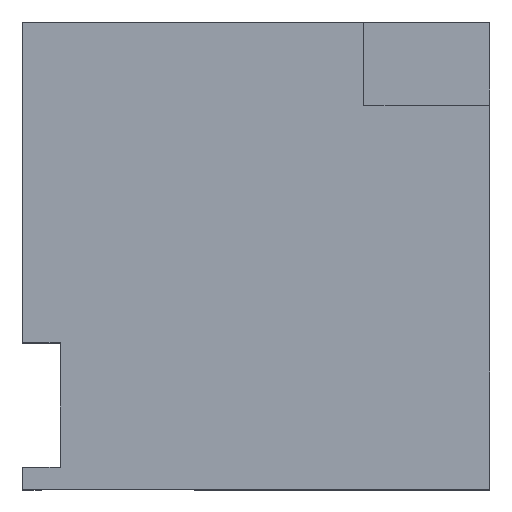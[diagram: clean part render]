
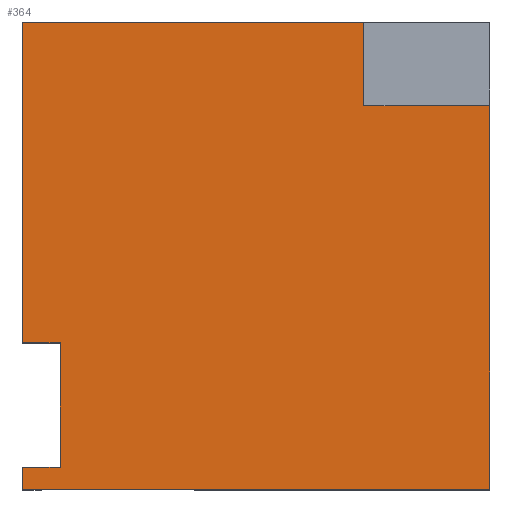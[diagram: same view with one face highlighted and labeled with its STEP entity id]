
A CAD part, top view. The second image highlights one B-rep face of the part: STEP entity #364.
In plain terms, the highlighted planar face has unit normal (0, 0, 1).
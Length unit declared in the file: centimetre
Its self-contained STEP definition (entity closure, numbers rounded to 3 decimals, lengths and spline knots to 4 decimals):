
#1 = PLANE ( 'NONE',  #713 ) ;
#21 = CARTESIAN_POINT ( 'NONE',  ( 0., 0., 1000. ) ) ;
#38 = VERTEX_POINT ( 'NONE', #528 ) ;
#44 = CARTESIAN_POINT ( 'NONE',  ( 730.9199, 821.097, 1000. ) ) ;
#52 = CARTESIAN_POINT ( 'NONE',  ( 1000., 0., 1000. ) ) ;
#58 = VECTOR ( 'NONE', #438, 100. ) ;
#94 = EDGE_CURVE ( 'NONE', #226, #446, #104, .T. ) ;
#101 = EDGE_CURVE ( 'NONE', #38, #204, #419, .T. ) ;
#104 = LINE ( 'NONE', #111, #1151 ) ;
#111 = CARTESIAN_POINT ( 'NONE',  ( 730.9199, 821.097, 1000. ) ) ;
#129 = VERTEX_POINT ( 'NONE', #496 ) ;
#153 = ORIENTED_EDGE ( 'NONE', *, *, #1100, .T. ) ;
#166 = CARTESIAN_POINT ( 'NONE',  ( 0., 1000., 1000. ) ) ;
#186 = CARTESIAN_POINT ( 'NONE',  ( 1000., 821.097, 1000. ) ) ;
#202 = DIRECTION ( 'NONE',  ( 0., 0., 1. ) ) ;
#204 = VERTEX_POINT ( 'NONE', #52 ) ;
#226 = VERTEX_POINT ( 'NONE', #44 ) ;
#255 = ORIENTED_EDGE ( 'NONE', *, *, #932, .T. ) ;
#267 = ORIENTED_EDGE ( 'NONE', *, *, #101, .T. ) ;
#281 = CARTESIAN_POINT ( 'NONE',  ( 0., 1000., 1000. ) ) ;
#285 = CARTESIAN_POINT ( 'NONE',  ( 0., 313.1975, 1000. ) ) ;
#291 = EDGE_CURVE ( 'NONE', #829, #226, #621, .T. ) ;
#302 = CARTESIAN_POINT ( 'NONE',  ( 730.9199, 1000., 1000. ) ) ;
#315 = DIRECTION ( 'NONE',  ( 1., 0., 0. ) ) ;
#317 = DIRECTION ( 'NONE',  ( -1., 0., 0. ) ) ;
#337 = VERTEX_POINT ( 'NONE', #491 ) ;
#338 = VECTOR ( 'NONE', #645, 100. ) ;
#364 = ADVANCED_FACE ( 'NONE', ( #1075 ), #1, .T. ) ;
#406 = DIRECTION ( 'NONE',  ( 0., 1., 0. ) ) ;
#413 = ORIENTED_EDGE ( 'NONE', *, *, #1195, .T. ) ;
#419 = LINE ( 'NONE', #1183, #434 ) ;
#434 = VECTOR ( 'NONE', #878, 100. ) ;
#438 = DIRECTION ( 'NONE',  ( 1., 0., 0. ) ) ;
#443 = ORIENTED_EDGE ( 'NONE', *, *, #512, .T. ) ;
#445 = CARTESIAN_POINT ( 'NONE',  ( 80.9382, 313.1975, 1000. ) ) ;
#446 = VERTEX_POINT ( 'NONE', #186 ) ;
#470 = LINE ( 'NONE', #857, #908 ) ;
#477 = DIRECTION ( 'NONE',  ( -1., 0., 0. ) ) ;
#485 = VERTEX_POINT ( 'NONE', #285 ) ;
#491 = CARTESIAN_POINT ( 'NONE',  ( 80.9382, 47.2096, 1000. ) ) ;
#496 = CARTESIAN_POINT ( 'NONE',  ( 0., 47.2096, 1000. ) ) ;
#501 = EDGE_CURVE ( 'NONE', #129, #38, #470, .T. ) ;
#512 = EDGE_CURVE ( 'NONE', #829, #871, #1260, .T. ) ;
#513 = CARTESIAN_POINT ( 'NONE',  ( 1000., 1000., 1000. ) ) ;
#520 = DIRECTION ( 'NONE',  ( 0., -1., 0. ) ) ;
#528 = CARTESIAN_POINT ( 'NONE',  ( 0., 0., 1000. ) ) ;
#562 = VECTOR ( 'NONE', #406, 100. ) ;
#571 = VECTOR ( 'NONE', #723, 100. ) ;
#621 = LINE ( 'NONE', #637, #571 ) ;
#630 = CARTESIAN_POINT ( 'NONE',  ( 80.9382, 47.2096, 1000. ) ) ;
#635 = CARTESIAN_POINT ( 'NONE',  ( 0., 1000., 1000. ) ) ;
#637 = CARTESIAN_POINT ( 'NONE',  ( 730.9199, 821.097, 1000. ) ) ;
#645 = DIRECTION ( 'NONE',  ( 0., -1., 0. ) ) ;
#666 = DIRECTION ( 'NONE',  ( 0., -1., 0. ) ) ;
#688 = LINE ( 'NONE', #513, #562 ) ;
#706 = ORIENTED_EDGE ( 'NONE', *, *, #989, .T. ) ;
#713 = AXIS2_PLACEMENT_3D ( 'NONE', #21, #202, #315 ) ;
#723 = DIRECTION ( 'NONE',  ( 0., -1., 0. ) ) ;
#728 = ORIENTED_EDGE ( 'NONE', *, *, #94, .F. ) ;
#797 = ORIENTED_EDGE ( 'NONE', *, *, #1251, .T. ) ;
#802 = EDGE_LOOP ( 'NONE', ( #413, #1166, #267, #153, #728, #1268, #443, #706, #797, #255 ) ) ;
#829 = VERTEX_POINT ( 'NONE', #302 ) ;
#857 = CARTESIAN_POINT ( 'NONE',  ( 0., 1000., 1000. ) ) ;
#871 = VERTEX_POINT ( 'NONE', #635 ) ;
#878 = DIRECTION ( 'NONE',  ( 1., 0., 0. ) ) ;
#908 = VECTOR ( 'NONE', #666, 100. ) ;
#932 = EDGE_CURVE ( 'NONE', #1219, #337, #1113, .T. ) ;
#942 = CARTESIAN_POINT ( 'NONE',  ( 0., 313.1975, 1000. ) ) ;
#989 = EDGE_CURVE ( 'NONE', #871, #485, #1029, .T. ) ;
#1014 = VECTOR ( 'NONE', #477, 100. ) ;
#1029 = LINE ( 'NONE', #166, #1142 ) ;
#1051 = VECTOR ( 'NONE', #317, 100. ) ;
#1075 = FACE_OUTER_BOUND ( 'NONE', #802, .T. ) ;
#1100 = EDGE_CURVE ( 'NONE', #204, #446, #688, .T. ) ;
#1107 = CARTESIAN_POINT ( 'NONE',  ( 0., 47.2096, 1000. ) ) ;
#1113 = LINE ( 'NONE', #630, #338 ) ;
#1137 = LINE ( 'NONE', #942, #58 ) ;
#1142 = VECTOR ( 'NONE', #520, 100. ) ;
#1151 = VECTOR ( 'NONE', #1192, 100. ) ;
#1166 = ORIENTED_EDGE ( 'NONE', *, *, #501, .T. ) ;
#1183 = CARTESIAN_POINT ( 'NONE',  ( 0., 0., 1000. ) ) ;
#1192 = DIRECTION ( 'NONE',  ( 1., 0., 0. ) ) ;
#1195 = EDGE_CURVE ( 'NONE', #337, #129, #1197, .T. ) ;
#1197 = LINE ( 'NONE', #1107, #1051 ) ;
#1219 = VERTEX_POINT ( 'NONE', #445 ) ;
#1251 = EDGE_CURVE ( 'NONE', #485, #1219, #1137, .T. ) ;
#1260 = LINE ( 'NONE', #281, #1014 ) ;
#1268 = ORIENTED_EDGE ( 'NONE', *, *, #291, .F. ) ;
